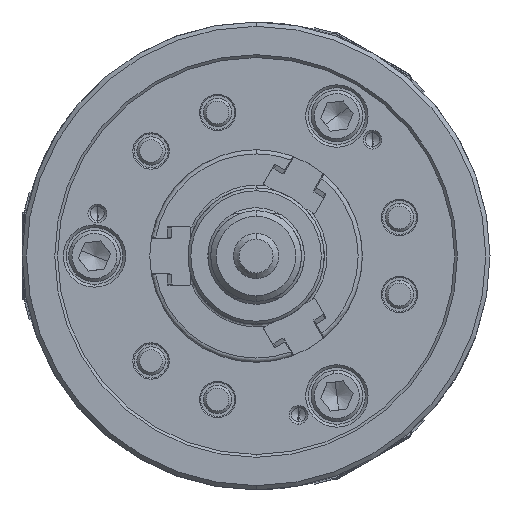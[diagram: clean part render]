
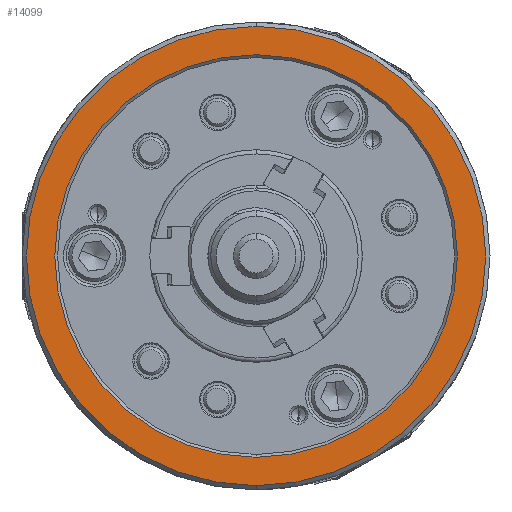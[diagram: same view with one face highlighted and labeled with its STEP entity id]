
A CAD part, left-side view. The second image highlights one B-rep face of the part: STEP entity #14099.
In plain terms, the highlighted planar face has unit normal (-1, 0, 0).
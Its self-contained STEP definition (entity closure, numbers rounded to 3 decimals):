
#489 = DIRECTION ( 'NONE',  ( 0., 0., -1. ) ) ;
#2459 = CARTESIAN_POINT ( 'NONE',  ( -74., 0., 0. ) ) ;
#3280 = CARTESIAN_POINT ( 'NONE',  ( -74., 0., 0. ) ) ;
#3881 = CARTESIAN_POINT ( 'NONE',  ( -74., 0., 71. ) ) ;
#7329 = AXIS2_PLACEMENT_3D ( 'NONE', #2459, #9730, #15659 ) ;
#8459 = VERTEX_POINT ( 'NONE', #3881 ) ;
#9730 = DIRECTION ( 'NONE',  ( 1., 0., 0. ) ) ;
#9883 = EDGE_CURVE ( 'NONE', #31246, #13165, #68194, .T. ) ;
#13165 = VERTEX_POINT ( 'NONE', #31894 ) ;
#14099 = ADVANCED_FACE ( 'NONE', ( #80724, #48773 ), #69652, .F. ) ;
#15659 = DIRECTION ( 'NONE',  ( 0., 0., -1. ) ) ;
#20666 = DIRECTION ( 'NONE',  ( 1., 0., 0. ) ) ;
#21132 = DIRECTION ( 'NONE',  ( 0., 0., -1. ) ) ;
#22764 = EDGE_CURVE ( 'NONE', #74603, #8459, #45208, .T. ) ;
#22777 = EDGE_CURVE ( 'NONE', #8459, #74603, #53935, .T. ) ;
#23559 = AXIS2_PLACEMENT_3D ( 'NONE', #3280, #85945, #78664 ) ;
#23821 = AXIS2_PLACEMENT_3D ( 'NONE', #74340, #20666, #21132 ) ;
#25070 = DIRECTION ( 'NONE',  ( 0., 0., -1. ) ) ;
#26396 = DIRECTION ( 'NONE',  ( 1., 0., 0. ) ) ;
#26417 = AXIS2_PLACEMENT_3D ( 'NONE', #30986, #32326, #25070 ) ;
#27457 = ORIENTED_EDGE ( 'NONE', *, *, #9883, .F. ) ;
#30986 = CARTESIAN_POINT ( 'NONE',  ( -74., 0., 0. ) ) ;
#31246 = VERTEX_POINT ( 'NONE', #42051 ) ;
#31894 = CARTESIAN_POINT ( 'NONE',  ( -74., 0., 81. ) ) ;
#32326 = DIRECTION ( 'NONE',  ( 1., 0., 0. ) ) ;
#33923 = ORIENTED_EDGE ( 'NONE', *, *, #22777, .T. ) ;
#42051 = CARTESIAN_POINT ( 'NONE',  ( -74., 0., -81. ) ) ;
#43488 = EDGE_LOOP ( 'NONE', ( #27457, #58369 ) ) ;
#45208 = CIRCLE ( 'NONE', #23559, 71. ) ;
#46134 = EDGE_CURVE ( 'NONE', #13165, #31246, #65679, .T. ) ;
#46761 = AXIS2_PLACEMENT_3D ( 'NONE', #55434, #26396, #489 ) ;
#48773 = FACE_BOUND ( 'NONE', #73759, .T. ) ;
#53935 = CIRCLE ( 'NONE', #26417, 71. ) ;
#55434 = CARTESIAN_POINT ( 'NONE',  ( -74., 0., 0. ) ) ;
#56192 = ORIENTED_EDGE ( 'NONE', *, *, #22764, .T. ) ;
#58369 = ORIENTED_EDGE ( 'NONE', *, *, #46134, .F. ) ;
#65679 = CIRCLE ( 'NONE', #46761, 81. ) ;
#68194 = CIRCLE ( 'NONE', #7329, 81. ) ;
#69652 = PLANE ( 'NONE',  #23821 ) ;
#73759 = EDGE_LOOP ( 'NONE', ( #33923, #56192 ) ) ;
#74340 = CARTESIAN_POINT ( 'NONE',  ( -74., -81., 0. ) ) ;
#74603 = VERTEX_POINT ( 'NONE', #88640 ) ;
#78664 = DIRECTION ( 'NONE',  ( 0., 0., -1. ) ) ;
#80724 = FACE_OUTER_BOUND ( 'NONE', #43488, .T. ) ;
#85945 = DIRECTION ( 'NONE',  ( 1., 0., 0. ) ) ;
#88640 = CARTESIAN_POINT ( 'NONE',  ( -74., 0., -71. ) ) ;
